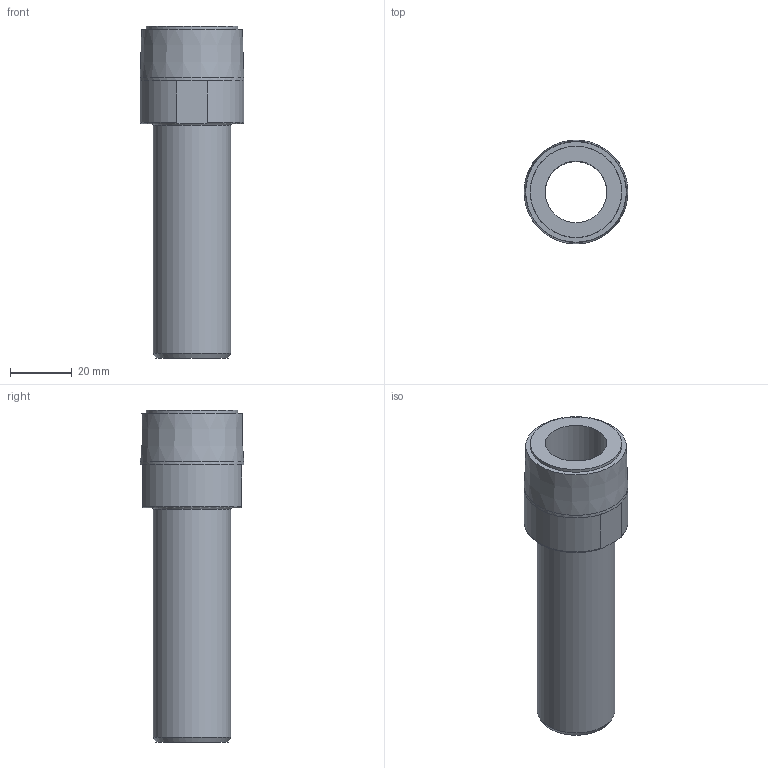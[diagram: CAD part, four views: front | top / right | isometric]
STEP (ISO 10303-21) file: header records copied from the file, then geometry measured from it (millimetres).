
FILE_DESCRIPTION( ( 'STEP AP214' ), '1' );
FILE_NAME( ' ', ' ', ( ' ' ), ( ' ' ), 'PSStep 11.0', 'VISI 17.0', ' ' );
FILE_SCHEMA( ( 'AUTOMOTIVE_DESIGN { 1 0 10303 214 1 1 1 1 }' ) );
Length unit declared in the file: millimetre
Products named in the file (2): 1; 2
Bounding box: 33.65 x 33.71 x 107.8 mm (x, y, z)
Volume: 31567.9 mm3; surface area: 20423.1 mm2
Topology: 2 solids, 2 shells, 22 faces, 43 edges, 27 vertices
Faces by surface type: plane 10, cone 5, cylinder 4, torus 3
Full cylindrical faces by diameter (mm): 20 x1, 25.2 x1
Entity records: 763 total; most frequent: CARTESIAN_POINT 126, DIRECTION 98, ORIENTED_EDGE 66, AXIS2_PLACEMENT_3D 45, EDGE_LOOP 36, EDGE_CURVE 33, FACE_OUTER_BOUND 25, VERTEX_POINT 25
